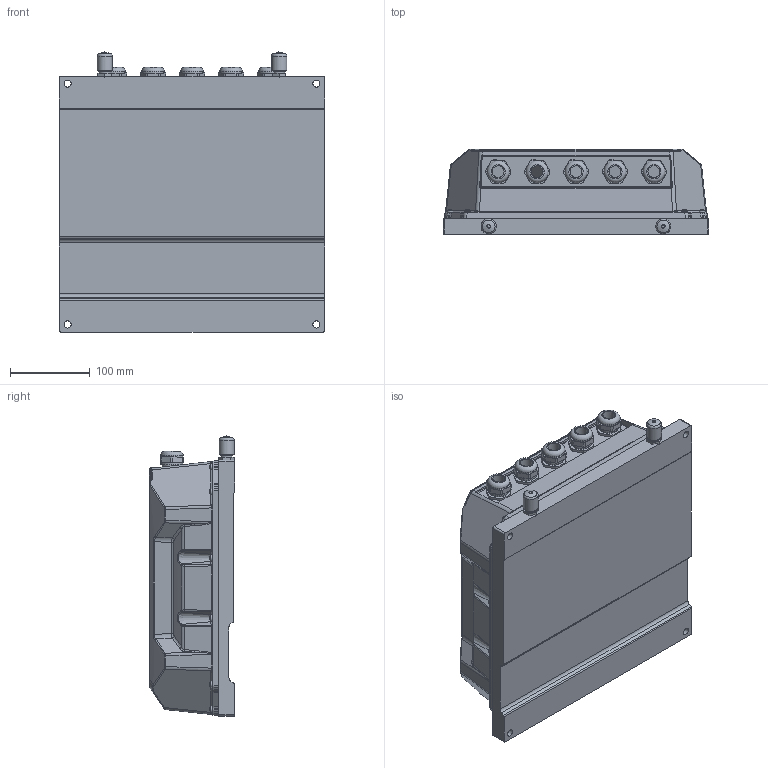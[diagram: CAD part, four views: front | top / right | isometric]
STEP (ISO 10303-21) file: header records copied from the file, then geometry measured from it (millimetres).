
FILE_DESCRIPTION (( 'STEP AP203' ), '1' );
FILE_NAME ('Gen4 SIZE 8 CUSTOMER MODEL.STEP', '2015-01-07T10:35:19', ( '' ), ( '' ), 'SwSTEP 2.0', 'SolidWorks 2015', '' );
FILE_SCHEMA (( 'CONFIG_CONTROL_DESIGN' ));
Products named in the file (1): Gen4 SIZE 8 CUSTOMER MODEL
Bounding box: 334 x 107.01 x 352.26 mm (x, y, z)
Surface area: 494349.2 mm2 (no closed solid volume)
Topology: 0 solids, 591 shells, 3349 faces, 13055 edges, 9966 vertices
Faces by surface type: plane 1443, cylinder 1345, bspline 356, torus 101, cone 54, sphere 50
Full cylindrical faces by diameter (mm): 0.4 x60, 0.6 x22, 0.8 x2, 1 x4, 1.2 x2, 1.3 x8, 1.8 x3, 3.5 x2, 4.5 x2, 4.75 x1, 5 x1, 5.6 x4, 6.4 x2, 7.85 x9, 8 x14, 9 x4, 10 x1, 14 x3, 15 x5, 15.9 x2, 18.9 x2, 22 x1, 24 x5, 28 x10
Entity records: 155049 total; most frequent: CARTESIAN_POINT 52672, DIRECTION 20449, ORIENTED_EDGE 18332, EDGE_CURVE 12743, VERTEX_POINT 9924, LINE 7009, VECTOR 7009, AXIS2_PLACEMENT_3D 6720
